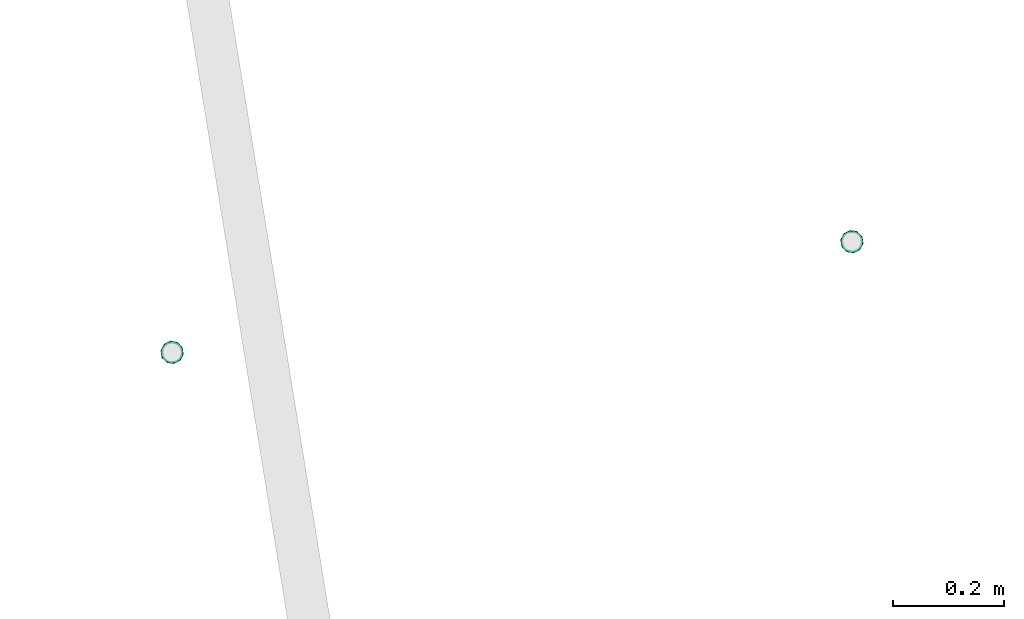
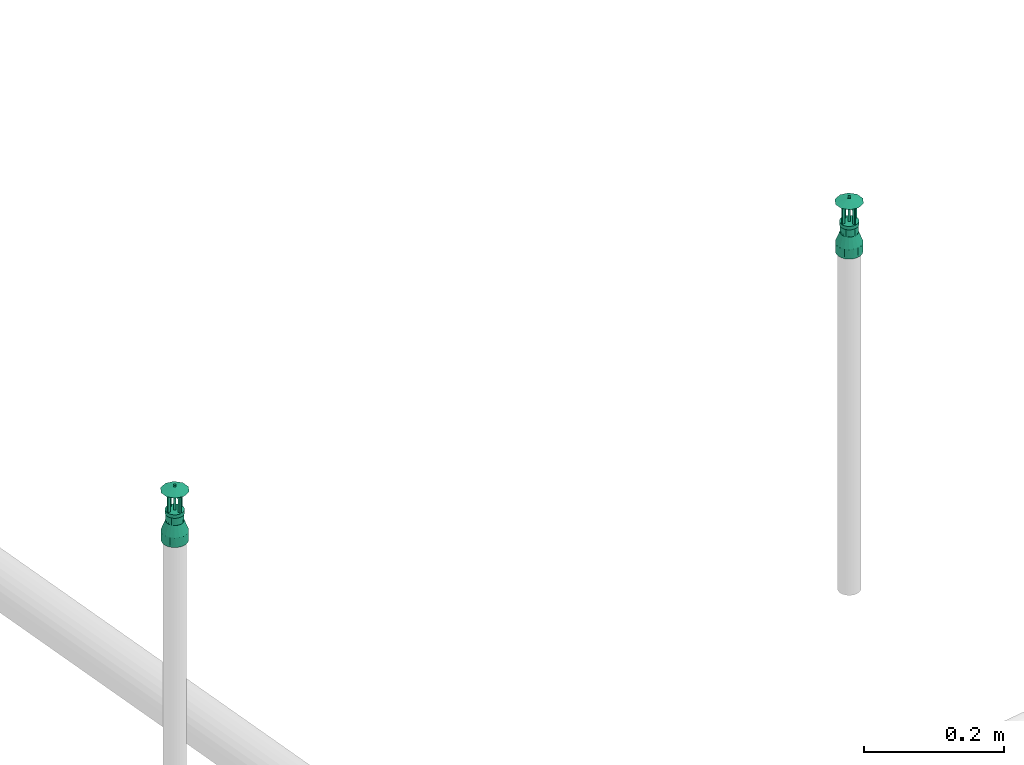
# One storey, part 30 of 46: 2 flow fittings, 2 flow terminals.
"""IFC2X3 building model written with IfcOpenShell, lengths in millimetres."""

import ifcopenshell
import ifcopenshell.guid

model = None  # the IFC model being written
_history = None  # IfcOwnerHistory: only IFC2X3 demands one
_inside = {}  # id of a spatial element -> (the spatial element, [elements in it])
_under = {}  # id of a project, library or spatial element -> (it, [spatial elements below it])
_declared = {}  # id of a project -> (the project, [libraries it declares])
_typed = {}  # id of a type object -> (the type object, [elements of that type])
_made_of = {}  # id of a material, layer set ... -> (it, [elements and type objects made of it])


def new_model(schema):
    """Start an empty IFC model of exactly this schema.

    Asked for "IFC4X3", IfcOpenShell would pick the latest addendum, in which some entities
    have other attributes; the version numbers below select the first issue.
    IFC2X3 requires an IfcOwnerHistory on every rooted entity: one is made here for all.
    """
    global model, _history
    if schema == "IFC4X3":
        model = ifcopenshell.file(schema_version=(4, 3, 0, 0))
    else:
        model = ifcopenshell.file(schema=schema)
    _inside.clear()
    _under.clear()
    _declared.clear()
    _typed.clear()
    _made_of.clear()
    _history = None
    if model.schema == "IFC2X3":
        org = make("IfcOrganization", Name="unknown")
        user = make(
            "IfcPersonAndOrganization",
            ThePerson=make("IfcPerson", FamilyName="unknown"),
            TheOrganization=org,
        )
        app = make(
            "IfcApplication",
            ApplicationDeveloper=org,
            Version="unknown",
            ApplicationFullName="unknown",
            ApplicationIdentifier="unknown",
        )
        _history = make(
            "IfcOwnerHistory",
            OwningUser=user,
            OwningApplication=app,
            ChangeAction="ADDED",
            CreationDate=0,
        )
    return model


def make(cls, **values):
    """One entity of the class cls with the attributes given. An attribute that is None is left unset."""
    return model.create_entity(
        cls, **{name: value for name, value in values.items() if value is not None}
    )


def entity(cls, *values):
    """Any entity or typed value of the class cls, its attributes in the order of the schema. None: left unset."""
    e = model.create_entity(cls)
    for i, value in enumerate(values):
        if value is not None:
            e[i] = value
    return e


def rooted(cls, **values):
    """An entity with a GlobalId (a new one), such as an element, a storey or a relation."""
    return make(cls, GlobalId=ifcopenshell.guid.new(), OwnerHistory=_history, **values)


def si_unit(unit_type, name, prefix=None):
    """IfcSIUnit, for example si_unit("LENGTHUNIT", "METRE", prefix="MILLI")."""
    return make("IfcSIUnit", UnitType=unit_type, Prefix=prefix, Name=name)


def converted_unit(unit_type, name, factor, base, dimensions=None, offset=None):
    """IfcConversionBasedUnit, such as the inch: factor (a typed value) times the base unit."""
    return make(
        "IfcConversionBasedUnit"
        if offset is None
        else "IfcConversionBasedUnitWithOffset",
        ConversionOffset=offset,
        Dimensions=None
        if dimensions is None
        else entity("IfcDimensionalExponents", *dimensions),
        UnitType=unit_type,
        Name=name,
        ConversionFactor=make(
            "IfcMeasureWithUnit", ValueComponent=factor, UnitComponent=base
        ),
    )


def derived_unit(unit_type, elements):
    """IfcDerivedUnit: a product of units, each with its exponent."""
    return make(
        "IfcDerivedUnit",
        Elements=[
            make("IfcDerivedUnitElement", Unit=unit, Exponent=power)
            for unit, power in elements
        ],
        UnitType=unit_type,
    )


def assignment(units):
    """IfcUnitAssignment: the units of a project."""
    return None if units is None else make("IfcUnitAssignment", Units=units)


def point(xyz):
    """IfcCartesianPoint."""
    return None if xyz is None else make("IfcCartesianPoint", Coordinates=xyz)


def direction(xyz):
    """IfcDirection."""
    return None if xyz is None else make("IfcDirection", DirectionRatios=xyz)


def frame(location, z_axis=None, x_axis=None):
    """IfcAxis2Placement3D, a coordinate frame: its origin and axes. An axis left out is left unset."""
    return make(
        "IfcAxis2Placement3D",
        Location=point(location),
        Axis=direction(z_axis),
        RefDirection=direction(x_axis),
    )


def origin():
    """The frame at (0, 0, 0) with its axes left unset."""
    return frame((0.0, 0.0, 0.0))


def origin_with_axes():
    """The frame at (0, 0, 0) with the z axis (0, 0, 1) and the x axis (1, 0, 0) written out."""
    return frame((0.0, 0.0, 0.0), z_axis=(0.0, 0.0, 1.0), x_axis=(1.0, 0.0, 0.0))


def place(relative_to, where):
    """IfcLocalPlacement: puts the frame where relative to a parent placement (None: the world)."""
    return make(
        "IfcLocalPlacement", PlacementRelTo=relative_to, RelativePlacement=where
    )


def context(
    kind, dimensions, precision=None, world=None, true_north=None, identifier=None
):
    """IfcGeometricRepresentationContext, for example the 3D "Model" context."""
    return make(
        "IfcGeometricRepresentationContext",
        ContextIdentifier=identifier,
        ContextType=kind,
        CoordinateSpaceDimension=dimensions,
        Precision=precision,
        WorldCoordinateSystem=world,
        TrueNorth=true_north,
    )


def subcontext(parent, identifier, kind, view, scale=None):
    """IfcGeometricRepresentationSubContext, for example "Body" below "Model"."""
    return make(
        "IfcGeometricRepresentationSubContext",
        ContextIdentifier=identifier,
        ContextType=kind,
        ParentContext=parent,
        TargetScale=scale,
        TargetView=view,
    )


def project(units=None, contexts=None):
    """IfcProject with its units and contexts."""
    return rooted(
        "IfcProject",
        Name="project",
        RepresentationContexts=contexts,
        UnitsInContext=assignment(units),
    )


def spatial(cls, under=None, at=None, **own):
    """A site, building, storey or space (cls), placed at a placement, below another one or the project."""
    s = rooted(cls, ObjectPlacement=at, **own)
    if under is not None:
        _under.setdefault(under.id(), (under, []))[1].append(s)
    return s


def faces_of(points, faces, orient=None, outer=None):
    """IfcFace entities. A face is a list of loops; a loop is a list of indices into points, from 0.

    orient and outer hold one flag for each loop. By default every Orientation is true, the
    first loop of a face is its IfcFaceOuterBound and the others are IfcFaceBound.
    """
    made = []
    for i, loops in enumerate(faces):
        bounds = []
        for j, loop in enumerate(loops):
            is_outer = j == 0 if outer is None else outer[i][j]
            bounds.append(
                make(
                    "IfcFaceOuterBound" if is_outer else "IfcFaceBound",
                    Bound=make("IfcPolyLoop", Polygon=[points[k] for k in loop]),
                    Orientation=True if orient is None else orient[i][j],
                )
            )
        made.append(make("IfcFace", Bounds=bounds))
    return made


def faceted_brep(points, faces, orient=None, outer=None, voids=None):
    """IfcFacetedBrep: a solid bounded by flat faces; with voids (closed shells), ...WithVoids."""
    shared = [point(p) for p in points]
    hull = make("IfcClosedShell", CfsFaces=faces_of(shared, faces, orient, outer))
    if voids is None:
        return make("IfcFacetedBrep", Outer=hull)
    return make(
        "IfcFacetedBrepWithVoids",
        Outer=hull,
        Voids=[
            make(cls, CfsFaces=faces_of(shared, fs, o, b)) for cls, fs, o, b in voids
        ],
    )


def shape(context_of_items, identifier, shape_type, items):
    """IfcShapeRepresentation: the items that make up one representation, for example the "Body"."""
    return make(
        "IfcShapeRepresentation",
        ContextOfItems=context_of_items,
        RepresentationIdentifier=identifier,
        RepresentationType=shape_type,
        Items=items,
    )


def source(mapping_origin, context_of_items, identifier, shape_type, items):
    """IfcRepresentationMap: a shape defined once, which mapped items show again and again."""
    return make(
        "IfcRepresentationMap",
        MappingOrigin=mapping_origin,
        MappedRepresentation=shape(context_of_items, identifier, shape_type, items),
    )


def transform(
    local_origin,
    x_axis=None,
    y_axis=None,
    z_axis=None,
    scale=None,
    scale2=None,
    scale3=None,
    uniform=True,
):
    """IfcCartesianTransformationOperator3D, or its non-uniform kind. x_axis, y_axis, z_axis: its Axis1, 2, 3."""
    if uniform:
        return make(
            "IfcCartesianTransformationOperator3D",
            Axis1=direction(x_axis),
            Axis2=direction(y_axis),
            LocalOrigin=point(local_origin),
            Scale=scale,
            Axis3=direction(z_axis),
        )
    return make(
        "IfcCartesianTransformationOperator3DnonUniform",
        Axis1=direction(x_axis),
        Axis2=direction(y_axis),
        LocalOrigin=point(local_origin),
        Scale=scale,
        Axis3=direction(z_axis),
        Scale2=scale2,
        Scale3=scale3,
    )


def mapped(mapping_source, mapping_target):
    """IfcMappedItem: shows the shape of a source again, moved by a transform."""
    return make(
        "IfcMappedItem", MappingSource=mapping_source, MappingTarget=mapping_target
    )


def material(Name=None, Category=None):
    """IfcMaterial."""
    return make("IfcMaterial", Name=Name, Category=Category)


def made_of(thing, what):
    """Note that an element or type object is made of a material, layer set ...; save() writes the relation."""
    if what is not None:
        _made_of.setdefault(what.id(), (what, []))[1].append(thing)
    return thing


def type_object(cls, material=None, **own):
    """A type object (cls), such as IfcWallType, which elements share."""
    return made_of(rooted(cls, **own), material)


def element(
    cls,
    number,
    at=None,
    inside=None,
    cuts=None,
    type_object=None,
    material=None,
    context=None,
    identifier="Body",
    shape_type=None,
    held_by="IfcProductDefinitionShape",
    body=None,
    shapes=None,
    **own,
):
    """One element of the class cls, such as IfcWall. Its Tag is "e" and its number.

    at: its placement. inside: the storey or other place that contains it. cuts: it is an
    opening in that element (IfcRelVoidsElement). A single representation is given by context,
    identifier, shape_type and body (its items); several are given by shapes. held_by: the class
    of the entity that holds the representations. save() writes the other relations.
    """
    e = rooted(cls, Tag="e%d" % number, ObjectPlacement=at, **own)
    if body is not None:
        shapes = [shape(context, identifier, shape_type, body)]
    if shapes is not None:
        e.Representation = make(held_by, Representations=shapes)
    if inside is not None:
        _inside.setdefault(inside.id(), (inside, []))[1].append(e)
    if cuts is not None:
        rooted(
            "IfcRelVoidsElement", RelatingBuildingElement=cuts, RelatedOpeningElement=e
        )
    if type_object is not None:
        _typed.setdefault(type_object.id(), (type_object, []))[1].append(e)
    return made_of(e, material)


def aggregate(whole, parts):
    """IfcRelAggregates: a whole, such as a stair, and the parts it consists of."""
    return rooted("IfcRelAggregates", RelatingObject=whole, RelatedObjects=parts)


def save(model, path):
    """Write the relations noted so far, then the file.

    IfcRelAggregates (storeys below a building ...), IfcRelContainedInSpatialStructure (elements
    in a storey), IfcRelDefinesByType, IfcRelAssociatesMaterial and IfcRelDeclares: one each for
    every whole, place, type object, material and project.
    """
    for whole, parts in _under.values():
        aggregate(whole, parts)
    for where, things in _inside.values():
        rooted(
            "IfcRelContainedInSpatialStructure",
            RelatedElements=things,
            RelatingStructure=where,
        )
    for kind, things in _typed.values():
        rooted("IfcRelDefinesByType", RelatedObjects=things, RelatingType=kind)
    for what, things in _made_of.values():
        rooted("IfcRelAssociatesMaterial", RelatedObjects=things, RelatingMaterial=what)
    for by, libraries in _declared.values():
        rooted("IfcRelDeclares", RelatingContext=by, RelatedDefinitions=libraries)
    model.write(path)


model = new_model("IFC2X3")

# Units and contexts
model_context = context("Model", 3, precision=0.01, world=origin(), true_north=direction((6.12323399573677e-17, 1.0)))
plan_context = context("Plan", 3, precision=1e-05, world=origin_with_axes())
body_context = subcontext(model_context, "Body", "Model", "MODEL_VIEW")
ifc_project = project(units=[converted_unit("PLANEANGLEUNIT", "DEGREE", entity("IfcPositiveLengthMeasure", 0.0174532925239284), si_unit("PLANEANGLEUNIT", "RADIAN"), dimensions=[0, 0, 0, 0, 0, 0, 0]), si_unit("AREAUNIT", "SQUARE_METRE"), si_unit("LENGTHUNIT", "METRE", prefix="MILLI"), si_unit("MASSUNIT", "GRAM", prefix="KILO"), si_unit("POWERUNIT", "WATT"), si_unit("PRESSUREUNIT", "PASCAL", prefix="KILO"), si_unit("FORCEUNIT", "NEWTON", prefix="KILO"), si_unit("ELECTRICVOLTAGEUNIT", "VOLT"), si_unit("ELECTRICCURRENTUNIT", "AMPERE"), si_unit("THERMODYNAMICTEMPERATUREUNIT", "DEGREE_CELSIUS"), si_unit("TIMEUNIT", "SECOND"), si_unit("VOLUMEUNIT", "CUBIC_METRE"), derived_unit("LINEARVELOCITYUNIT", [(si_unit("LENGTHUNIT", "METRE"), 1), (si_unit("TIMEUNIT", "SECOND"), -1)]), derived_unit("VOLUMETRICFLOWRATEUNIT", [(si_unit("VOLUMEUNIT", "CUBIC_METRE"), 1), (si_unit("TIMEUNIT", "SECOND"), -1)]), derived_unit("THERMALTRANSMITTANCEUNIT", [(si_unit("POWERUNIT", "WATT"), 1), (si_unit("THERMODYNAMICTEMPERATUREUNIT", "KELVIN"), -1), (si_unit("AREAUNIT", "SQUARE_METRE"), -1)]), derived_unit("SOUNDPRESSUREUNIT", [(si_unit("PRESSUREUNIT", "PASCAL"), 1)])], contexts=[model_context, plan_context])

# Site, building, storey
site_placement = place(None, frame((-3.09682673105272e-06, 1.93776733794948e-05, 0.0), z_axis=(0.0, 0.0, 1.0), x_axis=(-0.160806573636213, 0.986985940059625, 0.0)))
site = spatial("IfcSite", under=ifc_project, at=site_placement, Name="Default", CompositionType="ELEMENT")
building_placement = place(site_placement, frame((0.0, 0.0, 0.0), z_axis=(0.0, 0.0, 1.0), x_axis=(1.0, -2.77555756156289e-17, 0.0)))
building = spatial("IfcBuilding", under=site, at=building_placement, Name="Bygning (endres i Project Information)", CompositionType="ELEMENT")
storey_placement = place(building_placement, frame((0.0, 0.0, 51360.0000000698), z_axis=(0.0, 0.0, 1.0), x_axis=(1.0, -2.77555756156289e-17, 0.0)))
storey = spatial("IfcBuildingStorey", under=building, at=storey_placement, Name="H01-Nivå D+0,36", CompositionType="ELEMENT", Elevation=51360.0000000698)

# Flow fittings
ifc_material = material(Name="3320.001")
pipe_fitting_type_1 = type_object("IfcPipeFittingType", Name="RS_53_PIF_UN_Reducing-Socket-EN10241_MC_gen:RS_53_PIF_UN_Reducing-Socket-EN10241_MC_gen", PredefinedType="NOTDEFINED", material=ifc_material)
shared_shape_1 = source(origin(), body_context, "Body", "Brep", [
    faceted_brep([(0.0, 0.0, 13.5), (0.0, 3.49405710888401, 13.0399986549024), (0.0, 6.74999999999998, 11.6913429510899), (0.0, 9.54594154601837, 9.54594154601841), (0.0, 11.6913429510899, 6.75000000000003), (0.0, 13.0399986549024, 3.49405710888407), (0.0, 13.5, 0.0), (0.0, 13.0399986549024, -3.49405710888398), (0.0, 11.6913429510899, -6.74999999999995), (0.0, 9.54594154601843, -9.54594154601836), (0.0, 6.75000000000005, -11.6913429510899), (0.0, 3.49405710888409, -13.0399986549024), (0.0, 0.0, -13.5), (0.0, -3.49405710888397, -13.0399986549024), (0.0, -6.74999999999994, -11.69134295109), (0.0, -9.54594154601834, -9.54594154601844), (0.0, -11.6913429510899, -6.75000000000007), (0.0, -13.0399986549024, -3.49405710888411), (0.0, -13.5, 0.0), (0.0, -13.0399986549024, 3.49405710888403), (0.0, -11.6913429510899, 6.74999999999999), (0.0, -9.5459415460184, 9.54594154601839), (0.0, -6.75000000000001, 11.6913429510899), (0.0, -3.49405710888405, 13.0399986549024), (17.0, 4.54589529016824, -12.4935366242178), (17.0, 10.3411162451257, -8.67820919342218), (17.0, 11.5134189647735, -6.64791735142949), (17.0, 12.6857216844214, -4.61762550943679), (17.0, 8.54506932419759, -10.1850582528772), (17.0, 6.74902240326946, -11.6919073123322), (17.0, 13.0928608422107, -2.30881275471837), (17.0, 13.5, 0.0), (17.0, 2.34276817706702, -13.2951659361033), (17.0, -0.00166747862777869, -13.2948718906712), (17.0, -2.34610313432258, -13.2945778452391), (17.0, -8.54762393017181, -10.1829144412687), (17.0, -6.75195505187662, -11.6902139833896), (17.0, -4.5490290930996, -12.4923959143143), (17.0, -11.5150862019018, -6.6450290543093), (17.0, -12.6868795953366, -4.61444320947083), (17.0, -10.343292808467, -8.67561489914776), (17.0, -13.5, 0.0), (17.0, -10.3432928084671, 8.67561489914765), (17.0, -11.5150862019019, 6.64502905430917), (17.0, -12.6868795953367, 4.61444320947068), (17.0, -8.54762393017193, 10.1829144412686), (17.0, -6.75195505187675, 11.6902139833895), (17.0, -4.54902909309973, 12.4923959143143), (17.0, -2.34610313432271, 13.2945778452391), (17.0, -0.00166747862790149, 13.2948718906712), (17.0, 2.3427681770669, 13.2951659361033), (17.0, 12.6857216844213, 4.61762550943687), (17.0, 8.5450693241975, 10.1850582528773), (17.0, 13.0928608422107, 2.30881275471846), (17.0, 11.5134189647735, 6.64791735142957), (17.0, 10.3411162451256, 8.67820919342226), (17.0, 4.54589529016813, 12.4935366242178), (17.0, 6.74902240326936, 11.6919073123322), (34.0, 18.5588149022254, -6.75521201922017), (34.0, -18.5598439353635, -6.75238425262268), (34.0, 9.87413131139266, -17.104503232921), (34.0, -0.00148173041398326, -19.4499240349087), (34.0, 3.42823440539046, -19.4501853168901), (34.0, 6.65118285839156, -18.2773442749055), (34.0, 15.1289479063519, -12.6955675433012), (34.0, 12.5015396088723, -14.9000353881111), (34.0, 16.8438814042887, -9.72538978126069), (34.0, 19.1648351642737, -3.3184704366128), (34.0, -9.87673730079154, -17.1029985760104), (34.0, -15.1308820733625, -12.6932622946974), (34.0, -3.43119786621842, -19.4496627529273), (34.0, -6.65396758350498, -18.2763306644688), (34.0, -16.845363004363, -9.72282327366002), (34.0, -12.503809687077, -14.8981304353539), (34.0, -19.7500000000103, 0.0), (34.0, 19.7499999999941, 0.0), (34.0, 19.1544074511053, 3.37760600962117), (34.0, 6.65118285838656, 18.2773442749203), (34.0, 12.5015396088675, 14.9000353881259), (34.0, -6.65396758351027, 18.2763306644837), (34.0, -3.43119786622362, 19.4496627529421), (34.0, -12.5038096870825, 14.8981304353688), (34.0, -9.87673730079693, 17.1029985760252), (34.0, -15.1308820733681, 12.6932622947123), (34.0, -16.8453630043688, 9.72282327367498), (34.0, -18.5598439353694, 6.75238425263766), (34.0, 16.843881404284, 9.7253897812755), (34.0, 18.5588149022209, 6.75521201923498), (34.0, -0.00148173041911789, 19.4499240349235), (34.0, 3.42823440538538, 19.4501853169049), (34.0, 9.87413131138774, 17.1045032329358), (34.0, 15.1289479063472, 12.695567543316), (51.0, 0.0, -19.75), (51.0, 5.11167614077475, -19.0770350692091), (51.0, 9.87499999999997, -17.1040017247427), (51.0, 13.9653589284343, -13.9653589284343), (51.0, 17.1040017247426, -9.87500000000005), (51.0, 19.0770350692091, -5.11167614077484), (51.0, 19.75, 0.0), (51.0, 19.0770350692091, 5.11167614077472), (51.0, 17.1040017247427, 9.87499999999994), (51.0, 13.9653589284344, 13.9653589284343), (51.0, 9.87500000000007, 17.1040017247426), (51.0, 5.11167614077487, 19.0770350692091), (51.0, 0.0, 19.75), (51.0, -5.11167614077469, 19.0770350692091), (51.0, -9.87499999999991, 17.1040017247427), (51.0, -13.9653589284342, 13.9653589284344), (51.0, -17.1040017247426, 9.8750000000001), (51.0, -19.0770350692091, 5.1116761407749), (51.0, -19.75, 0.0), (51.0, -19.0770350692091, -5.11167614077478), (51.0, -17.1040017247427, -9.87499999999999), (51.0, -13.9653589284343, -13.9653589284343), (51.0, -9.87500000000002, -17.1040017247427), (51.0, -5.11167614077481, -19.0770350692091)], [[[0, 1, 2, 3, 4, 5, 6, 7, 8, 9, 10, 11, 12, 13, 14, 15, 16, 17, 18, 19, 20, 21, 22, 23]], [[11, 10, 24]], [[25, 9, 8]], [[26, 25, 8, 27]], [[10, 28, 29]], [[30, 27, 7]], [[6, 31, 30]], [[7, 6, 30]], [[24, 32, 11]], [[28, 9, 25]], [[33, 34, 12, 32]], [[15, 14, 35]], [[9, 28, 10]], [[10, 29, 24]], [[13, 12, 34]], [[36, 14, 37]], [[38, 39, 16, 40]], [[13, 37, 14]], [[39, 17, 16]], [[35, 40, 15]], [[37, 13, 34]], [[11, 32, 12]], [[15, 40, 16]], [[39, 41, 17]], [[7, 27, 8]], [[41, 18, 17]], [[14, 36, 35]], [[19, 18, 41]], [[42, 21, 20]], [[43, 42, 20, 44]], [[22, 45, 46]], [[19, 41, 44]], [[47, 48, 23]], [[45, 21, 42]], [[49, 50, 0, 48]], [[21, 45, 22]], [[23, 22, 47]], [[22, 46, 47]], [[19, 44, 20]], [[0, 50, 1]], [[51, 5, 4]], [[3, 2, 52]], [[5, 53, 6]], [[54, 51, 4, 55]], [[53, 31, 6]], [[1, 50, 56]], [[56, 57, 2]], [[3, 55, 4]], [[1, 56, 2]], [[52, 55, 3]], [[23, 48, 0]], [[5, 51, 53]], [[2, 57, 52]], [[27, 30, 58]], [[38, 59, 39]], [[28, 60, 29]], [[61, 32, 62]], [[29, 60, 63]], [[25, 64, 65]], [[28, 25, 65]], [[27, 58, 66]], [[26, 27, 66]], [[30, 31, 67]], [[66, 64, 26]], [[33, 32, 61]], [[26, 64, 25]], [[37, 68, 36]], [[65, 60, 28]], [[35, 69, 40]], [[70, 34, 33]], [[34, 70, 71]], [[37, 34, 71]], [[61, 70, 33]], [[40, 69, 72]], [[36, 68, 73]], [[41, 39, 74]], [[75, 67, 31]], [[72, 59, 38]], [[24, 62, 32]], [[73, 69, 35]], [[39, 59, 74]], [[30, 67, 58]], [[24, 29, 63]], [[63, 62, 24]], [[35, 36, 73]], [[71, 68, 37]], [[38, 40, 72]], [[74, 44, 41]], [[53, 76, 31]], [[56, 77, 57]], [[52, 78, 55]], [[79, 80, 48]], [[81, 82, 46]], [[42, 83, 45]], [[84, 83, 42]], [[44, 85, 43]], [[85, 44, 74]], [[83, 81, 45]], [[43, 85, 84]], [[54, 86, 51]], [[53, 51, 87]], [[79, 47, 82]], [[46, 82, 47]], [[88, 89, 50]], [[90, 57, 77]], [[50, 89, 56]], [[48, 80, 49]], [[87, 51, 86]], [[91, 55, 78]], [[31, 76, 75]], [[47, 79, 48]], [[56, 89, 77]], [[49, 88, 50]], [[54, 91, 86]], [[87, 76, 53]], [[45, 81, 46]], [[78, 52, 90]], [[43, 84, 42]], [[57, 90, 52]], [[80, 88, 49]], [[55, 91, 54]], [[92, 93, 94, 95, 96, 97, 98, 99, 100, 101, 102, 103, 104, 105, 106, 107, 108, 109, 110, 111, 112, 113, 114, 115]], [[111, 110, 74]], [[69, 113, 112]], [[72, 69, 112, 59]], [[114, 73, 68]], [[111, 74, 59]], [[71, 70, 115]], [[73, 113, 69]], [[61, 62, 92, 70]], [[113, 73, 114]], [[93, 92, 62]], [[95, 64, 96]], [[60, 94, 63]], [[111, 59, 112]], [[114, 68, 71]], [[94, 60, 65]], [[67, 75, 98]], [[93, 63, 94]], [[65, 64, 95]], [[63, 93, 62]], [[115, 114, 71]], [[97, 67, 98]], [[97, 96, 58]], [[58, 67, 97]], [[95, 94, 65]], [[96, 64, 66, 58]], [[115, 70, 92]], [[103, 102, 77]], [[91, 101, 100]], [[86, 91, 100, 87]], [[102, 78, 90]], [[76, 87, 99]], [[99, 98, 76]], [[99, 87, 100]], [[77, 89, 103]], [[78, 101, 91]], [[88, 80, 104, 89]], [[102, 90, 77]], [[101, 78, 102]], [[98, 75, 76]], [[105, 104, 80]], [[82, 106, 79]], [[84, 85, 108, 83]], [[105, 79, 106]], [[85, 109, 108]], [[81, 83, 107]], [[79, 105, 80]], [[107, 83, 108]], [[106, 82, 81]], [[85, 74, 109]], [[74, 110, 109]], [[103, 89, 104]], [[107, 106, 81]]]),
])
flow_fitting_1_placement = place(storey_placement, frame((1000788.36764383, -346930.46291744, 3818.99999993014), z_axis=(-2.77555756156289e-17, -1.0, 0.0), x_axis=(0.0, 0.0, -1.0)))
element("IfcFlowFitting", 1, at=flow_fitting_1_placement, inside=storey, type_object=pipe_fitting_type_1, material=ifc_material, Name="RS_53_PIF_UN_Reducing-Socket-EN10241_MC_gen:RS_53_PIF_UN_Reducing-Socket-EN10241_MC_gen", ObjectType="RS_53_PIF_UN_Reducing-Socket-EN10241_MC_gen:RS_53_PIF_UN_Reducing-Socket-EN10241_MC_gen", context=body_context, shape_type="MappedRepresentation", body=[
    mapped(shared_shape_1, transform((0.0, 0.0, 0.0), scale=1.0)),
])
pipe_fitting_type_2 = type_object("IfcPipeFittingType", Name="RS_53_PIF_UN_Reducing-Socket-EN10241_MC_gen:RS_53_PIF_UN_Reducing-Socket-EN10241_MC_gen", PredefinedType="NOTDEFINED", material=ifc_material)
shared_shape_2 = source(origin(), body_context, "Body", "Brep", [
    faceted_brep([(0.0, 5.11167614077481, 19.0770350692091), (0.0, 9.87500000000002, 17.1040017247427), (0.0, 13.9653589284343, 13.9653589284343), (0.0, 17.1040017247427, 9.87499999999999), (0.0, 19.0770350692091, 5.11167614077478), (0.0, 19.75, 0.0), (0.0, 19.0770350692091, -5.1116761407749), (0.0, 17.1040017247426, -9.8750000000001), (0.0, 13.9653589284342, -13.9653589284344), (0.0, 9.87499999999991, -17.1040017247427), (0.0, 5.11167614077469, -19.0770350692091), (0.0, 0.0, -19.75), (0.0, -5.11167614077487, -19.0770350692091), (0.0, -9.87500000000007, -17.1040017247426), (0.0, -13.9653589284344, -13.9653589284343), (0.0, -17.1040017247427, -9.87499999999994), (0.0, -19.0770350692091, -5.11167614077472), (0.0, -19.75, 0.0), (0.0, -19.0770350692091, 5.11167614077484), (0.0, -17.1040017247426, 9.87500000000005), (0.0, -13.9653589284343, 13.9653589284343), (0.0, -9.87499999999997, 17.1040017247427), (0.0, -5.11167614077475, 19.0770350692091), (0.0, 0.0, 19.75), (17.0, -6.65118285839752, -18.277344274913), (17.0, -15.1289479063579, -12.6955675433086), (17.0, -16.8438814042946, -9.72538978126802), (17.0, -18.5588149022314, -6.7552120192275), (17.0, -9.87413131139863, -17.1045032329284), (17.0, -12.5015396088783, -14.9000353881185), (17.0, -19.1544074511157, -3.37760600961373), (17.0, -3.42823440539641, -19.4501853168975), (17.0, 3.43119786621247, -19.4496627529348), (17.0, 0.0014817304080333, -19.4499240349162), (17.0, -19.75, 0.0), (17.0, 6.65396758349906, -18.2763306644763), (17.0, 9.87673730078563, -17.1029985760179), (17.0, 18.5598439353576, -6.75238425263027), (17.0, 16.8453630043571, -9.7228232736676), (17.0, 15.1308820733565, -12.6932622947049), (17.0, 12.5038096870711, -14.8981304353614), (17.0, 19.75, 0.0), (17.0, 15.1308820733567, 12.6932622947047), (17.0, 16.8453630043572, 9.72282327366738), (17.0, 18.5598439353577, 6.75238425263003), (17.0, 9.87673730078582, 17.1029985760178), (17.0, 12.5038096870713, 14.8981304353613), (17.0, 3.43119786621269, 19.4496627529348), (17.0, 6.65396758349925, 18.2763306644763), (17.0, -3.4282344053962, 19.4501853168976), (17.0, 0.00148173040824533, 19.4499240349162), (17.0, -15.1289479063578, 12.6955675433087), (17.0, -6.65118285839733, 18.277344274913), (17.0, -9.87413131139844, 17.1045032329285), (17.0, -12.5015396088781, 14.9000353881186), (17.0, -19.1544074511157, 3.37760600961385), (17.0, -18.5588149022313, 6.75521201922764), (17.0, -16.8438814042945, 9.72538978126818), (34.0, 13.5000000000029, 0.0), (34.0, 12.6868795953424, -4.61444320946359), (34.0, -4.54589529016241, -12.4935366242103), (34.0, -2.34276817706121, -13.2951659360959), (34.0, 6.75195505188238, -11.6902139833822), (34.0, 0.00166747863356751, -13.2948718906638), (34.0, 2.34610313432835, -13.2945778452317), (34.0, 10.3432928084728, -8.67561489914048), (34.0, 8.54762393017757, -10.1829144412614), (34.0, 4.54902909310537, -12.492395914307), (34.0, 11.5150862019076, -6.64502905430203), (34.0, -6.74902240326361, -11.6919073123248), (34.0, -13.4999999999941, 0.0), (34.0, -13.0928608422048, -2.30881275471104), (34.0, -10.3411162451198, -8.6782091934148), (34.0, -8.54506932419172, -10.1850582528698), (34.0, -12.6857216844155, -4.61762550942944), (34.0, -11.5134189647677, -6.64791735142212), (34.0, -13.0928608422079, 2.30881275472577), (34.0, -12.6857216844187, 4.6176255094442), (34.0, 2.34610313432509, 13.2945778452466), (34.0, 4.54902909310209, 12.4923959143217), (34.0, -10.3411162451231, 8.67820919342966), (34.0, 0.00166747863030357, 13.2948718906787), (34.0, -6.74902240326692, 11.6919073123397), (34.0, -8.54506932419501, 10.1850582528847), (34.0, -11.5134189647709, 6.64791735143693), (34.0, -2.34276817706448, 13.2951659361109), (34.0, -4.5458952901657, 12.4935366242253), (34.0, 12.6868795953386, 4.61444320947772), (34.0, 11.5150862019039, 6.64502905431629), (34.0, 10.3432928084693, 8.67561489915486), (34.0, 6.7519550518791, 11.6902139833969), (34.0, 8.54762393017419, 10.1829144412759), (51.0, 3.49405710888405, -13.0399986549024), (51.0, 6.75000000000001, -11.6913429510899), (51.0, 9.5459415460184, -9.54594154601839), (51.0, 11.6913429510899, -6.74999999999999), (51.0, 13.0399986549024, -3.49405710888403), (51.0, 13.5, 0.0), (51.0, 13.0399986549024, 3.49405710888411), (51.0, 11.6913429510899, 6.75000000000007), (51.0, 9.54594154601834, 9.54594154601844), (51.0, 6.74999999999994, 11.69134295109), (51.0, 3.49405710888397, 13.0399986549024), (51.0, 0.0, 13.5), (51.0, -3.49405710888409, 13.0399986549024), (51.0, -6.75000000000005, 11.6913429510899), (51.0, -9.54594154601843, 9.54594154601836), (51.0, -11.6913429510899, 6.74999999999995), (51.0, -13.0399986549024, 3.49405710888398), (51.0, -13.5, 0.0), (51.0, -13.0399986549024, -3.49405710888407), (51.0, -11.6913429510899, -6.75000000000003), (51.0, -9.54594154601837, -9.54594154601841), (51.0, -6.74999999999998, -11.6913429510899), (51.0, -3.49405710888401, -13.0399986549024), (51.0, 0.0, -13.5)], [[[0, 1, 2, 3, 4, 5, 6, 7, 8, 9, 10, 11, 12, 13, 14, 15, 16, 17, 18, 19, 20, 21, 22, 23]], [[24, 13, 12]], [[15, 14, 25]], [[15, 25, 26, 27]], [[28, 29, 13]], [[16, 27, 30]], [[30, 17, 16]], [[15, 27, 16]], [[12, 31, 24]], [[25, 14, 29]], [[11, 32, 33, 31]], [[24, 28, 13]], [[13, 29, 14]], [[30, 34, 17]], [[32, 11, 10]], [[35, 9, 36]], [[7, 37, 38, 39]], [[9, 35, 10]], [[7, 6, 37]], [[8, 39, 40]], [[32, 10, 35]], [[7, 39, 8]], [[40, 36, 9]], [[6, 41, 37]], [[6, 5, 41]], [[11, 31, 12]], [[40, 9, 8]], [[41, 5, 4]], [[3, 2, 42]], [[3, 42, 43, 44]], [[45, 46, 1]], [[44, 41, 4]], [[0, 47, 48]], [[42, 2, 46]], [[23, 49, 50, 47]], [[1, 46, 2]], [[49, 23, 22]], [[19, 51, 20]], [[52, 21, 53]], [[3, 44, 4]], [[48, 45, 1]], [[54, 53, 21]], [[17, 34, 55]], [[21, 52, 22]], [[20, 51, 54]], [[49, 22, 52]], [[48, 1, 0]], [[17, 55, 18]], [[56, 19, 18]], [[18, 55, 56]], [[54, 21, 20]], [[57, 51, 19, 56]], [[23, 47, 0]], [[41, 58, 59]], [[60, 31, 61]], [[40, 62, 36]], [[63, 32, 64]], [[65, 39, 38]], [[64, 32, 35]], [[61, 33, 63]], [[37, 41, 59]], [[62, 40, 66]], [[40, 39, 66]], [[35, 36, 67]], [[65, 38, 68]], [[37, 68, 38]], [[64, 35, 67]], [[61, 31, 33]], [[69, 28, 24]], [[69, 24, 60]], [[70, 30, 71]], [[72, 29, 73]], [[30, 70, 34]], [[74, 27, 26]], [[68, 37, 59]], [[72, 25, 29]], [[27, 74, 71]], [[31, 60, 24]], [[29, 28, 73]], [[75, 26, 25]], [[67, 36, 62]], [[66, 39, 65]], [[27, 71, 30]], [[74, 26, 75]], [[73, 28, 69]], [[63, 33, 32]], [[75, 25, 72]], [[56, 76, 77]], [[48, 78, 79]], [[54, 51, 80]], [[81, 47, 50]], [[57, 56, 77]], [[52, 53, 82]], [[82, 53, 83]], [[55, 70, 76]], [[70, 55, 34]], [[84, 51, 57]], [[50, 85, 81]], [[56, 55, 76]], [[86, 49, 52]], [[83, 53, 54]], [[81, 78, 47]], [[48, 47, 78]], [[80, 51, 84]], [[49, 85, 50]], [[87, 44, 88]], [[87, 58, 41]], [[43, 42, 89]], [[57, 77, 84]], [[46, 45, 90]], [[85, 49, 86]], [[88, 44, 43]], [[54, 80, 83]], [[91, 42, 46]], [[52, 82, 86]], [[89, 42, 91]], [[87, 41, 44]], [[90, 45, 79]], [[46, 90, 91]], [[79, 45, 48]], [[43, 89, 88]], [[92, 93, 94, 95, 96, 97, 98, 99, 100, 101, 102, 103, 104, 105, 106, 107, 108, 109, 110, 111, 112, 113, 114, 115]], [[58, 97, 96]], [[95, 94, 65]], [[95, 65, 68, 59]], [[62, 66, 93]], [[59, 58, 96]], [[92, 64, 67]], [[65, 94, 66]], [[115, 61, 63, 64]], [[93, 66, 94]], [[67, 93, 92]], [[67, 62, 93]], [[95, 59, 96]], [[114, 61, 115]], [[111, 110, 74]], [[73, 113, 112]], [[109, 71, 110]], [[111, 74, 75, 72]], [[109, 70, 71]], [[60, 61, 114]], [[113, 69, 60]], [[111, 72, 112]], [[113, 60, 114]], [[112, 72, 73]], [[115, 64, 92]], [[71, 74, 110]], [[73, 69, 113]], [[86, 105, 104]], [[107, 106, 80]], [[107, 80, 84, 77]], [[82, 83, 105]], [[108, 77, 76]], [[76, 70, 109]], [[76, 109, 108]], [[104, 85, 86]], [[80, 106, 83]], [[103, 78, 81, 85]], [[91, 101, 100]], [[105, 83, 106]], [[86, 82, 105]], [[78, 103, 102]], [[79, 101, 90]], [[99, 87, 88, 89]], [[101, 79, 102]], [[99, 98, 87]], [[100, 89, 91]], [[78, 102, 79]], [[103, 85, 104]], [[99, 89, 100]], [[98, 58, 87]], [[107, 77, 108]], [[98, 97, 58]], [[91, 90, 101]]]),
])
flow_fitting_2_placement = place(storey_placement, frame((1000788.36764383, -348173.710293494, 3719.81212530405), z_axis=(2.77555756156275e-17, 0.99999999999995, 3.16675188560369e-07), x_axis=(-6.61744490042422e-24, -3.16675188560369e-07, 0.99999999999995)))
element("IfcFlowFitting", 2, at=flow_fitting_2_placement, inside=storey, type_object=pipe_fitting_type_2, material=ifc_material, Name="RS_53_PIF_UN_Reducing-Socket-EN10241_MC_gen:RS_53_PIF_UN_Reducing-Socket-EN10241_MC_gen", ObjectType="RS_53_PIF_UN_Reducing-Socket-EN10241_MC_gen:RS_53_PIF_UN_Reducing-Socket-EN10241_MC_gen", context=body_context, shape_type="MappedRepresentation", body=[
    mapped(shared_shape_2, transform((0.0, 0.0, 0.0), scale=1.0)),
])

# Flow terminals
fire_suppression_terminal_type = type_object("IfcFireSuppressionTerminalType", Name="SU-15-K80-68DGR-STD:SU-15-K80-68DGR-STD", PredefinedType="NOTDEFINED", material=ifc_material)
shared_shape_3 = source(origin(), body_context, "Body", "Brep", [
    faceted_brep([(-2.5, 0.0, 62.0), (0.0, -2.5, 62.0), (2.5, 0.0, 62.0), (0.0, 2.5, 62.0), (0.0, 2.5, 59.0), (2.5, 0.0, 59.0), (0.0, -2.5, 59.0), (-2.5, 0.0, 59.0)], [[[0, 1, 2, 3]], [[4, 5, 6, 7]], [[3, 4, 7, 0]], [[2, 5, 4, 3]], [[1, 6, 5, 2]], [[0, 7, 6, 1]]]),
    faceted_brep([(1.0, 13.5, 47.0), (1.0, -13.5, 47.0), (1.0, -13.5, 19.0), (1.0, -8.5, 19.0), (1.0, -8.5, 42.0), (1.0, 8.5, 42.0), (1.0, 8.5, 19.0), (1.0, 13.5, 19.0), (-1.0, 13.5, 47.0), (-1.0, 13.5, 19.0), (-1.0, 8.5, 19.0), (-1.0, 8.5, 42.0), (-1.0, -8.5, 42.0), (-1.0, -8.5, 19.0), (-1.0, -13.5, 19.0), (-1.0, -13.5, 47.0)], [[[0, 1, 2, 3, 4, 5, 6, 7]], [[8, 9, 10, 11, 12, 13, 14, 15]], [[7, 9, 8, 0]], [[6, 10, 9, 7]], [[5, 11, 10, 6]], [[4, 12, 11, 5]], [[3, 13, 12, 4]], [[2, 14, 13, 3]], [[1, 15, 14, 2]], [[0, 8, 15, 1]]]),
    faceted_brep([(-13.5, -1.0, 47.0), (-13.5, -1.0, 19.0), (-8.5, -1.0, 19.0), (-8.5, -1.0, 42.0), (8.5, -1.0, 42.0), (8.5, -1.0, 19.0), (13.5, -1.0, 19.0), (13.5, -1.0, 47.0), (-13.5, 1.0, 47.0), (13.5, 1.0, 47.0), (13.5, 1.0, 19.0), (8.5, 1.0, 19.0), (8.5, 1.0, 42.0), (-8.5, 1.0, 42.0), (-8.5, 1.0, 19.0), (-13.5, 1.0, 19.0)], [[[0, 1, 2, 3, 4, 5, 6, 7]], [[8, 9, 10, 11, 12, 13, 14, 15]], [[7, 9, 8, 0]], [[6, 10, 9, 7]], [[5, 11, 10, 6]], [[4, 12, 11, 5]], [[3, 13, 12, 4]], [[2, 14, 13, 3]], [[1, 15, 14, 2]], [[0, 8, 15, 1]]]),
    faceted_brep([(2.5, 0.0, 59.0), (0.0, 2.5, 59.0), (-2.5, 0.0, 59.0), (0.0, -2.5, 59.0), (-6.48935688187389, -19.9721868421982, 53.0), (-16.9893568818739, -12.3434902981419, 53.0), (-21.0, 0.0, 53.0), (-16.9893568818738, 12.343490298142, 53.0), (-6.48935688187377, 19.9721868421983, 53.0), (6.48935688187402, 19.9721868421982, 53.0), (16.989356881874, 12.3434902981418, 53.0), (21.0, 0.0, 53.0), (16.9893568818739, -12.3434902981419, 53.0), (6.4893568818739, -19.9721868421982, 53.0)], [[[0, 1, 2, 3]], [[4, 5, 6, 7, 8, 9, 10, 11, 12, 13]], [[10, 0, 11]], [[10, 9, 1]], [[1, 0, 10]], [[7, 2, 1]], [[8, 7, 1]], [[6, 2, 7]], [[9, 8, 1]], [[5, 2, 6]], [[5, 4, 3]], [[3, 2, 5]], [[12, 0, 3]], [[13, 12, 3]], [[11, 0, 12]], [[4, 13, 3]]]),
    faceted_brep([(-2.5, 0.0, 53.0), (0.0, -2.5, 53.0), (2.5, 0.0, 53.0), (0.0, 2.5, 53.0), (0.0, 2.5, 19.0), (2.5, 0.0, 19.0), (0.0, -2.5, 19.0), (-2.5, 0.0, 19.0)], [[[0, 1, 2, 3]], [[4, 5, 6, 7]], [[3, 4, 7, 0]], [[2, 5, 4, 3]], [[1, 6, 5, 2]], [[0, 7, 6, 1]]]),
    faceted_brep([(7.0, 12.1243556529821, 19.0), (3.62346663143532, 13.5229615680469, 19.0), (0.0, 14.0, 19.0), (-3.62346663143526, 13.522961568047, 19.0), (-7.0, 12.1243556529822, 19.0), (-9.89949493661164, 9.89949493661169, 19.0), (-12.1243556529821, 7.0, 19.0), (-13.5229615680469, 3.62346663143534, 19.0), (-14.0, 0.0, 19.0), (-13.5229615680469, -3.62346663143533, 19.0), (-12.1243556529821, -7.0, 19.0), (-9.89949493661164, -9.89949493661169, 19.0), (-7.0, -12.1243556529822, 19.0), (-3.62346663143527, -13.522961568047, 19.0), (0.0, -14.0, 19.0), (3.62346663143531, -13.522961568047, 19.0), (7.0, -12.1243556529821, 19.0), (9.89949493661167, -9.89949493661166, 19.0), (12.1243556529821, -7.0, 19.0), (13.522961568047, -3.62346663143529, 19.0), (14.0, 0.0, 19.0), (13.522961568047, 3.62346663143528, 19.0), (12.1243556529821, 7.0, 19.0), (9.89949493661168, 9.89949493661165, 19.0), (9.89949493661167, -9.89949493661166, 13.0), (7.0, -12.1243556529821, 13.0), (3.62346663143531, -13.522961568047, 13.0), (0.0, -14.0, 13.0), (-3.62346663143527, -13.522961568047, 13.0), (-7.0, -12.1243556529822, 13.0), (-9.89949493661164, -9.89949493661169, 13.0), (-12.1243556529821, -7.0, 13.0), (-13.5229615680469, -3.62346663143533, 13.0), (-14.0, 0.0, 13.0), (-13.5229615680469, 3.62346663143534, 13.0), (-12.1243556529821, 7.0, 13.0), (-9.89949493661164, 9.89949493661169, 13.0), (-7.0, 12.1243556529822, 13.0), (-3.62346663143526, 13.522961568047, 13.0), (0.0, 14.0, 13.0), (3.62346663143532, 13.5229615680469, 13.0), (7.0, 12.1243556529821, 13.0), (9.89949493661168, 9.89949493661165, 13.0), (12.1243556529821, 7.0, 13.0), (13.522961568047, 3.62346663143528, 13.0), (14.0, 0.0, 13.0), (13.522961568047, -3.62346663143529, 13.0), (12.1243556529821, -7.0, 13.0)], [[[0, 1, 2, 3, 4, 5, 6, 7, 8, 9, 10, 11, 12, 13, 14, 15, 16, 17, 18, 19, 20, 21, 22, 23]], [[24, 25, 26, 27, 28, 29, 30, 31, 32, 33, 34, 35, 36, 37, 38, 39, 40, 41, 42, 43, 44, 45, 46, 47]], [[33, 8, 7, 34]], [[34, 7, 6, 35]], [[37, 36, 5, 4]], [[5, 36, 35, 6]], [[38, 37, 4, 3]], [[38, 3, 2, 39]], [[39, 2, 1, 40]], [[40, 1, 0, 41]], [[43, 42, 23, 22]], [[23, 42, 41, 0]], [[44, 43, 22, 21]], [[44, 21, 20, 45]], [[45, 20, 19, 46]], [[46, 19, 18, 47]], [[25, 24, 17, 16]], [[17, 24, 47, 18]], [[26, 25, 16, 15]], [[26, 15, 14, 27]], [[27, 14, 13, 28]], [[28, 13, 12, 29]], [[31, 30, 11, 10]], [[11, 30, 29, 12]], [[32, 31, 10, 9]], [[32, 9, 8, 33]]]),
    faceted_brep([(3.75000000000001, 6.49519052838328, 13.0), (1.94114283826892, 7.24444369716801, 13.0), (0.0, 7.5, 13.0), (-1.94114283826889, 7.24444369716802, 13.0), (-3.74999999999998, 6.4951905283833, 13.0), (-5.30330085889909, 5.30330085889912, 13.0), (-6.49519052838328, 3.75000000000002, 13.0), (-7.244443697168, 1.94114283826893, 13.0), (-7.5, 0.0, 13.0), (-7.24444369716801, -1.94114283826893, 13.0), (-6.49519052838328, -3.75000000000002, 13.0), (-5.3033008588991, -5.30330085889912, 13.0), (-3.74999999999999, -6.4951905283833, 13.0), (-1.94114283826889, -7.24444369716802, 13.0), (0.0, -7.5, 13.0), (1.94114283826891, -7.24444369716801, 13.0), (3.75000000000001, -6.49519052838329, 13.0), (5.30330085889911, -5.3033008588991, 13.0), (6.49519052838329, -3.75, 13.0), (7.24444369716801, -1.9411428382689, 13.0), (7.5, 0.0, 13.0), (7.24444369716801, 1.9411428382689, 13.0), (6.49519052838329, 3.75, 13.0), (5.30330085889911, 5.3033008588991, 13.0), (5.30330085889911, -5.3033008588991, 0.0), (3.75000000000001, -6.49519052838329, 0.0), (1.94114283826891, -7.24444369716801, 0.0), (0.0, -7.5, 0.0), (-1.94114283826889, -7.24444369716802, 0.0), (-3.74999999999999, -6.4951905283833, 0.0), (-5.3033008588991, -5.30330085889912, 0.0), (-6.49519052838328, -3.75000000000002, 0.0), (-7.24444369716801, -1.94114283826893, 0.0), (-7.5, 0.0, 0.0), (-7.244443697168, 1.94114283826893, 0.0), (-6.49519052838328, 3.75000000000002, 0.0), (-5.30330085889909, 5.30330085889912, 0.0), (-3.74999999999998, 6.4951905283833, 0.0), (-1.94114283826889, 7.24444369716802, 0.0), (0.0, 7.5, 0.0), (1.94114283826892, 7.24444369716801, 0.0), (3.75000000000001, 6.49519052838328, 0.0), (5.30330085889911, 5.3033008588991, 0.0), (6.49519052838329, 3.75, 0.0), (7.24444369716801, 1.9411428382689, 0.0), (7.5, 0.0, 0.0), (7.24444369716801, -1.9411428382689, 0.0), (6.49519052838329, -3.75, 0.0)], [[[0, 1, 2, 3, 4, 5, 6, 7, 8, 9, 10, 11, 12, 13, 14, 15, 16, 17, 18, 19, 20, 21, 22, 23]], [[24, 25, 26, 27, 28, 29, 30, 31, 32, 33, 34, 35, 36, 37, 38, 39, 40, 41, 42, 43, 44, 45, 46, 47]], [[33, 8, 7, 34]], [[34, 7, 6, 35]], [[37, 36, 5, 4]], [[5, 36, 35, 6]], [[38, 37, 4, 3]], [[38, 3, 2, 39]], [[39, 2, 1, 40]], [[40, 1, 0, 41]], [[43, 42, 23, 22]], [[23, 42, 41, 0]], [[44, 43, 22, 21]], [[44, 21, 20, 45]], [[45, 20, 19, 46]], [[46, 19, 18, 47]], [[25, 24, 17, 16]], [[17, 24, 47, 18]], [[26, 25, 16, 15]], [[26, 15, 14, 27]], [[27, 14, 13, 28]], [[28, 13, 12, 29]], [[31, 30, 11, 10]], [[11, 30, 29, 12]], [[32, 31, 10, 9]], [[32, 9, 8, 33]]]),
])
for number, where, z_axis, x_axis in (
    (3, (1000788.36764383, -348173.710304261, 3753.81212530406), (0.0, 0.0, 1.0), (-1.0, 2.77555756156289e-17, 0.0)),
    (4, (1000788.36764383, -346930.46291744, 3801.99999993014), (0.0, 0.0, 1.0), (1.0, -2.77555756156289e-17, 0.0)),
):
    element("IfcFlowTerminal", number, at=place(storey_placement, frame(where, z_axis=z_axis, x_axis=x_axis)), inside=storey, type_object=fire_suppression_terminal_type, material=ifc_material, Name="SU-15-K80-68DGR-STD:SU-15-K80-68DGR-STD", ObjectType="SU-15-K80-68DGR-STD:SU-15-K80-68DGR-STD", context=body_context, shape_type="MappedRepresentation", body=[
        mapped(shared_shape_3, transform((0.0, 0.0, 0.0), scale=1.0)),
    ])

save(model, "model.ifc")
